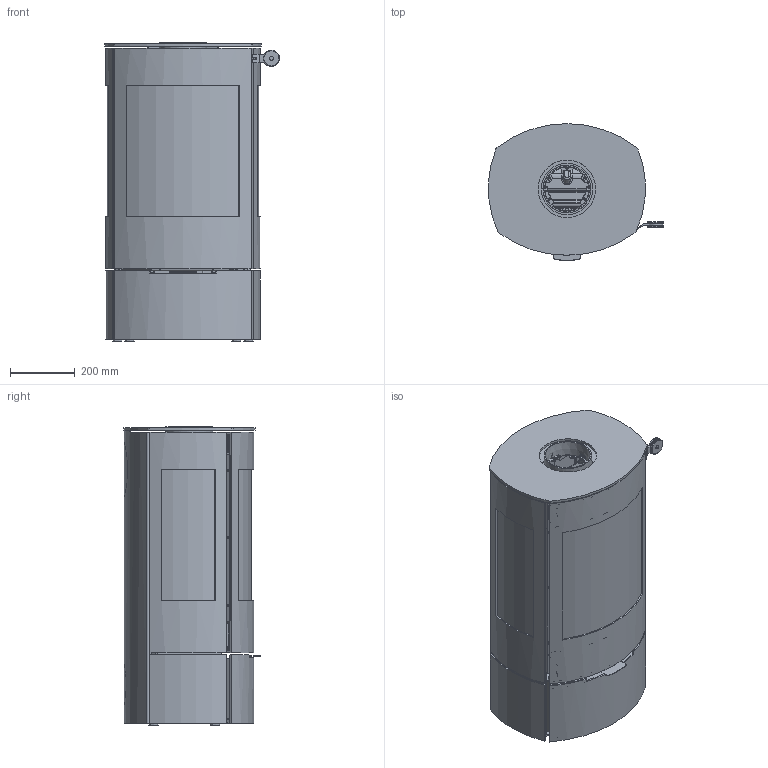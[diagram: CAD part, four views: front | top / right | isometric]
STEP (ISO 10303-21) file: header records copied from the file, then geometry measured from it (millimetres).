
FILE_DESCRIPTION(/* description */ (''),/* implementation_level */ '2;1');
FILE_NAME(/* name */ '14-0131 Caro 90 Classic 3G TO.stp',/* time_stamp */ '2025-02-15T09:43:48+01:00',/* author */ ('pch'),/* organization */ (''),/* preprocessor_version */ 'ST-DEVELOPER v20',/* originating_system */ 'Autodesk Inventor 2025',/* authorisation */ '');
FILE_SCHEMA (('AUTOMOTIVE_DESIGN { 1 0 10303 214 3 1 1 }'));
Products named in the file (1): 14-0131 Caro 90 Classic 3G TO
Bounding box: 540.96 x 421.74 x 922 mm (x, y, z)
Volume: 19388276.1 mm3; surface area: 7837272 mm2
Topology: 17 solids, 17 shells, 5166 faces, 14599 edges, 9107 vertices
Faces by surface type: plane 2693, cylinder 1611, bspline 498, sphere 144, torus 118, cone 102
Full cylindrical faces by diameter (mm): 2.5 x2, 4.2 x71, 4.917 x3, 5 x13, 5.2 x3, 5.5 x7, 6.05 x2, 6.1 x1, 7 x5, 8 x6, 8.3 x1, 9.5 x1, 10 x10, 12.5 x1, 15 x1, 18 x1, 20 x2, 50 x2, 100 x1, 153.5 x1, 160 x1, 178 x1
Entity records: 199542 total; most frequent: CARTESIAN_POINT 60187, ORIENTED_EDGE 29134, DIRECTION 27027, EDGE_CURVE 14567, LINE 9391, VECTOR 9391, VERTEX_POINT 9114, AXIS2_PLACEMENT_3D 8818
